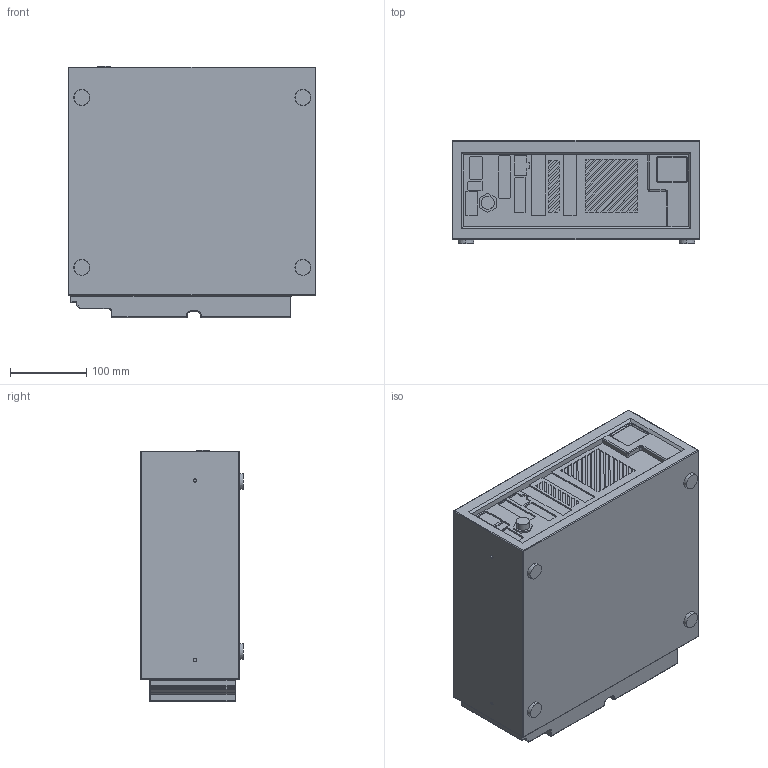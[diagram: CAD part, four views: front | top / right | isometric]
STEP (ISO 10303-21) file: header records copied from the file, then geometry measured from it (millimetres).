
FILE_DESCRIPTION (( 'STEP AP214' ), '1' );
FILE_NAME ('SRC-Micro(YRC1100micro)-v3 model.STEP', '2020-12-28T01:59:31', ( '' ), ( '' ), 'SwSTEP 2.0', 'SolidWorks 2018', '' );
FILE_SCHEMA (( 'AUTOMOTIVE_DESIGN' ));
Length unit declared in the file: millimetre
Products named in the file (1): SRC-Micro(YRC1100micro)-v3 model
Bounding box: 325 x 135 x 330 mm (x, y, z)
Volume: 13262499.8 mm3; surface area: 391302.3 mm2
Topology: 1 solids, 1 shells, 399 faces, 953 edges, 580 vertices
Faces by surface type: plane 260, cylinder 87, sphere 24, torus 20, cone 8
Entity records: 11331 total; most frequent: DIRECTION 1933, CARTESIAN_POINT 1915, ORIENTED_EDGE 1858, EDGE_CURVE 929, LINE 721, VECTOR 721, AXIS2_PLACEMENT_3D 606, VERTEX_POINT 580
